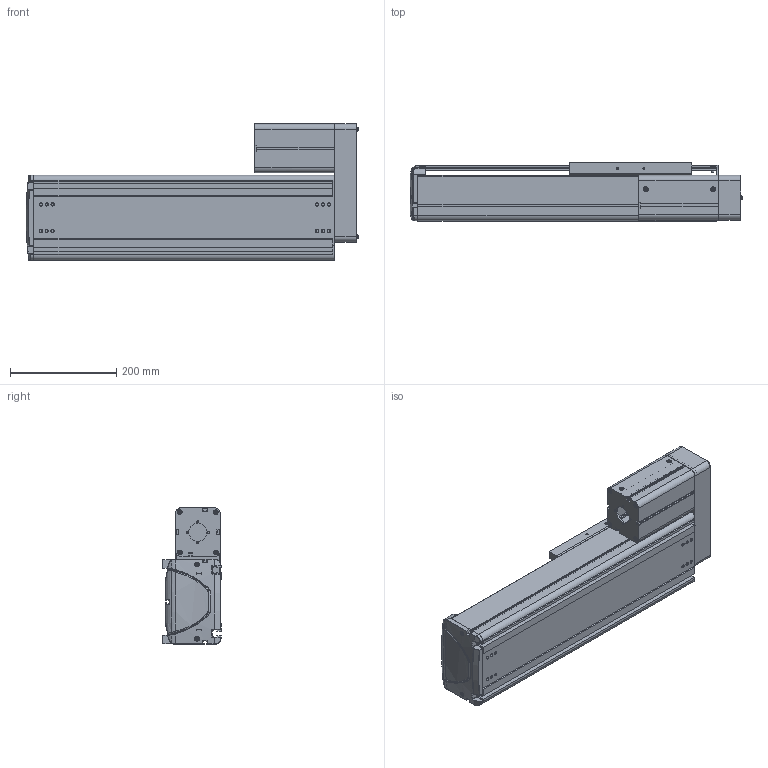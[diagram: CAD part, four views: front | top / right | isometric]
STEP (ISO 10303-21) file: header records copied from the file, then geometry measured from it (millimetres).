
FILE_DESCRIPTION((''),'2;1');
FILE_NAME('BE50F-UR-L_N-25_IGS_PRT','2017-06-18T',(' '),(''),'PRO/ENGINEER BY PARAMETRIC TECHNOLOGY CORPORATION, 2015030','PRO/ENGINEER BY PARAMETRIC TECHNOLOGY CORPORATION, 2015030','');
FILE_SCHEMA(('CONFIG_CONTROL_DESIGN'));
Length unit declared in the file: millimetre
Products named in the file (1): BE50F-UR-L_N-25_IGS_PRT
Bounding box: 625.88 x 110 x 257 mm (x, y, z)
Volume: 3259060.4 mm3; surface area: 1281110.2 mm2
Topology: 4 solids, 116 shells, 2115 faces, 5699 edges, 3710 vertices
Faces by surface type: plane 982, cylinder 875, cone 115, torus 59, bspline 52, sphere 32
Entity records: 69527 total; most frequent: CARTESIAN_POINT 15735, DIRECTION 11332, ORIENTED_EDGE 10888, EDGE_CURVE 5657, AXIS2_PLACEMENT_3D 4028, VERTEX_POINT 3710, VECTOR 3276, LINE 3276
